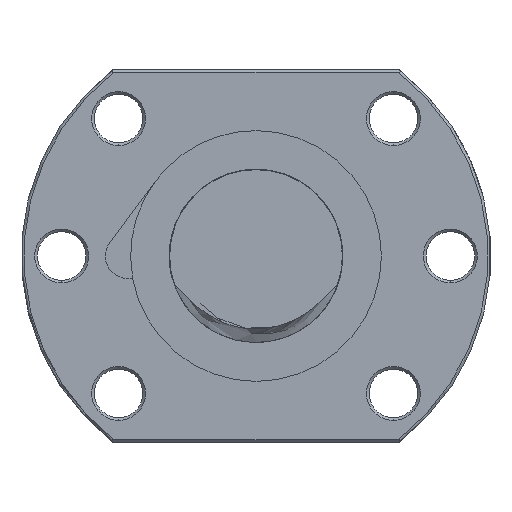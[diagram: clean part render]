
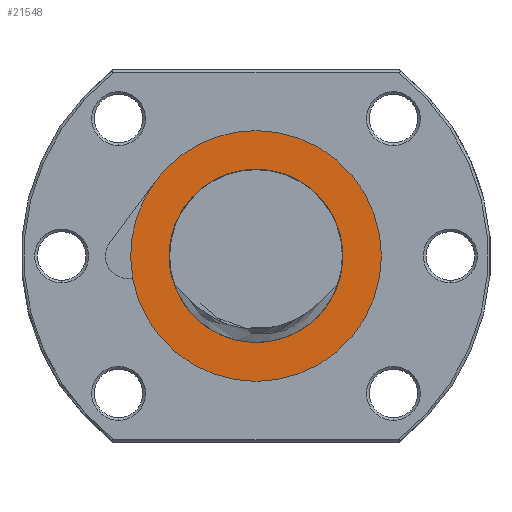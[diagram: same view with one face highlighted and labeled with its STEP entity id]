
A CAD part, left-side view. The second image highlights one B-rep face of the part: STEP entity #21548.
In plain terms, the highlighted planar face has unit normal (-1, 0, 0).
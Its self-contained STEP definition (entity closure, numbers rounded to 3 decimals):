
#21258 = VERTEX_POINT ( 'NONE', #22998 ) ;
#21411 = EDGE_CURVE ( 'NONE', #21258, #21412, #23364, .T. ) ;
#21412 = VERTEX_POINT ( 'NONE', #23360 ) ;
#21446 = EDGE_CURVE ( 'NONE', #21447, #21448, #23278, .T. ) ;
#21447 = VERTEX_POINT ( 'NONE', #23274 ) ;
#21448 = VERTEX_POINT ( 'NONE', #23269 ) ;
#21462 = EDGE_CURVE ( 'NONE', #21412, #21463, #23254, .T. ) ;
#21463 = VERTEX_POINT ( 'NONE', #23250 ) ;
#21535 = EDGE_CURVE ( 'NONE', #21448, #21536, #23609, .T. ) ;
#21536 = VERTEX_POINT ( 'NONE', #23604 ) ;
#21548 = ADVANCED_FACE ( 'NONE', ( #23566, #23568 ), #23565, .T. ) ;
#21549 = EDGE_LOOP ( 'NONE', ( #21550, #21551, #21553 ) ) ;
#21550 = ORIENTED_EDGE ( 'NONE', *, *, #21411, .F. ) ;
#21551 = ORIENTED_EDGE ( 'NONE', *, *, #21552, .F. ) ;
#21552 = EDGE_CURVE ( 'NONE', #21463, #21258, #23556, .T. ) ;
#21553 = ORIENTED_EDGE ( 'NONE', *, *, #21462, .F. ) ;
#21554 = EDGE_LOOP ( 'NONE', ( #21555, #21558, #21559, #21560 ) ) ;
#21555 = ORIENTED_EDGE ( 'NONE', *, *, #21556, .T. ) ;
#21556 = EDGE_CURVE ( 'NONE', #21536, #21632, #23555, .T. ) ;
#21558 = ORIENTED_EDGE ( 'NONE', *, *, #21631, .T. ) ;
#21559 = ORIENTED_EDGE ( 'NONE', *, *, #21446, .T. ) ;
#21560 = ORIENTED_EDGE ( 'NONE', *, *, #21535, .T. ) ;
#21631 = EDGE_CURVE ( 'NONE', #21632, #21447, #26987, .T. ) ;
#21632 = VERTEX_POINT ( 'NONE', #26978 ) ;
#22998 = CARTESIAN_POINT ( 'NONE',  ( -179.8, -14.764, -6.422 ) ) ;
#23250 = CARTESIAN_POINT ( 'NONE',  ( -179.8, 15.587, -4.033 ) ) ;
#23251 = DIRECTION ( 'NONE',  ( 0., 0., 1. ) ) ;
#23252 = DIRECTION ( 'NONE',  ( -1., 0., 0. ) ) ;
#23253 = AXIS2_PLACEMENT_3D ( 'NONE', #23257, #23252, #23251 ) ;
#23254 = CIRCLE ( 'NONE', #23253, 16.1 ) ;
#23257 = CARTESIAN_POINT ( 'NONE',  ( -179.8, 0., 0. ) ) ;
#23269 = CARTESIAN_POINT ( 'NONE',  ( -179.8, 0., 23.225 ) ) ;
#23270 = DIRECTION ( 'NONE',  ( 0., 0., 1. ) ) ;
#23271 = DIRECTION ( 'NONE',  ( -1., 0., 0. ) ) ;
#23272 = CARTESIAN_POINT ( 'NONE',  ( -179.8, 0., 0. ) ) ;
#23273 = AXIS2_PLACEMENT_3D ( 'NONE', #23272, #23271, #23270 ) ;
#23274 = CARTESIAN_POINT ( 'NONE',  ( -179.8, 0., -23.225 ) ) ;
#23278 = CIRCLE ( 'NONE', #23273, 23.225 ) ;
#23360 = CARTESIAN_POINT ( 'NONE',  ( -179.8, 0., 16.1 ) ) ;
#23361 = DIRECTION ( 'NONE',  ( 0., 0., 1. ) ) ;
#23362 = DIRECTION ( 'NONE',  ( -1., 0., 0. ) ) ;
#23363 = AXIS2_PLACEMENT_3D ( 'NONE', #23367, #23362, #23361 ) ;
#23364 = CIRCLE ( 'NONE', #23363, 16.1 ) ;
#23367 = CARTESIAN_POINT ( 'NONE',  ( -179.8, 0., 0. ) ) ;
#23497 = DIRECTION ( 'NONE',  ( 0., 0., 1. ) ) ;
#23498 = DIRECTION ( 'NONE',  ( -1., 0., 0. ) ) ;
#23499 = CARTESIAN_POINT ( 'NONE',  ( -179.8, 0., 0. ) ) ;
#23500 = AXIS2_PLACEMENT_3D ( 'NONE', #23499, #23498, #23497 ) ;
#23502 = CARTESIAN_POINT ( 'NONE',  ( -179.8, -14.764, -6.422 ) ) ;
#23503 = CARTESIAN_POINT ( 'NONE',  ( -179.8, -14.598, -6.507 ) ) ;
#23504 = CARTESIAN_POINT ( 'NONE',  ( -179.8, -14.442, -6.612 ) ) ;
#23505 = CARTESIAN_POINT ( 'NONE',  ( -179.8, -14.141, -6.835 ) ) ;
#23506 = CARTESIAN_POINT ( 'NONE',  ( -179.8, -13.996, -6.953 ) ) ;
#23507 = CARTESIAN_POINT ( 'NONE',  ( -179.8, -13.567, -7.315 ) ) ;
#23508 = CARTESIAN_POINT ( 'NONE',  ( -179.8, -13.289, -7.566 ) ) ;
#23509 = CARTESIAN_POINT ( 'NONE',  ( -179.8, -12.456, -8.318 ) ) ;
#23510 = CARTESIAN_POINT ( 'NONE',  ( -179.8, -11.898, -8.817 ) ) ;
#23511 = CARTESIAN_POINT ( 'NONE',  ( -179.8, -10.166, -10.229 ) ) ;
#23512 = CARTESIAN_POINT ( 'NONE',  ( -179.8, -8.938, -11.062 ) ) ;
#23513 = CARTESIAN_POINT ( 'NONE',  ( -179.8, -7.268, -11.903 ) ) ;
#23514 = CARTESIAN_POINT ( 'NONE',  ( -179.8, -6.926, -12.062 ) ) ;
#23515 = CARTESIAN_POINT ( 'NONE',  ( -179.8, -6.234, -12.356 ) ) ;
#23516 = CARTESIAN_POINT ( 'NONE',  ( -179.8, -5.886, -12.492 ) ) ;
#23517 = CARTESIAN_POINT ( 'NONE',  ( -179.8, -4.83, -12.861 ) ) ;
#23518 = CARTESIAN_POINT ( 'NONE',  ( -179.8, -4.113, -13.059 ) ) ;
#23519 = CARTESIAN_POINT ( 'NONE',  ( -179.8, -3.018, -13.282 ) ) ;
#23520 = CARTESIAN_POINT ( 'NONE',  ( -179.8, -2.649, -13.344 ) ) ;
#23521 = CARTESIAN_POINT ( 'NONE',  ( -179.8, -1.906, -13.443 ) ) ;
#23522 = CARTESIAN_POINT ( 'NONE',  ( -179.8, -1.53, -13.479 ) ) ;
#23523 = CARTESIAN_POINT ( 'NONE',  ( -179.8, -0.408, -13.548 ) ) ;
#23524 = CARTESIAN_POINT ( 'NONE',  ( -179.8, 0.336, -13.541 ) ) ;
#23525 = CARTESIAN_POINT ( 'NONE',  ( -179.8, 1.815, -13.423 ) ) ;
#23526 = CARTESIAN_POINT ( 'NONE',  ( -179.8, 2.55, -13.313 ) ) ;
#23527 = CARTESIAN_POINT ( 'NONE',  ( -179.8, 3.647, -13.068 ) ) ;
#23528 = CARTESIAN_POINT ( 'NONE',  ( -179.8, 4.013, -12.972 ) ) ;
#23529 = CARTESIAN_POINT ( 'NONE',  ( -179.8, 4.73, -12.757 ) ) ;
#23530 = CARTESIAN_POINT ( 'NONE',  ( -179.8, 5.083, -12.638 ) ) ;
#23531 = CARTESIAN_POINT ( 'NONE',  ( -179.8, 6.82, -11.985 ) ) ;
#23532 = CARTESIAN_POINT ( 'NONE',  ( -179.8, 8.119, -11.281 ) ) ;
#23533 = CARTESIAN_POINT ( 'NONE',  ( -179.8, 9.637, -10.191 ) ) ;
#23534 = CARTESIAN_POINT ( 'NONE',  ( -179.8, 9.936, -9.961 ) ) ;
#23542 = CARTESIAN_POINT ( 'NONE',  ( -179.8, 10.517, -9.487 ) ) ;
#23543 = CARTESIAN_POINT ( 'NONE',  ( -179.8, 10.799, -9.242 ) ) ;
#23544 = CARTESIAN_POINT ( 'NONE',  ( -179.8, 11.624, -8.485 ) ) ;
#23545 = CARTESIAN_POINT ( 'NONE',  ( -179.8, 12.143, -7.952 ) ) ;
#23546 = CARTESIAN_POINT ( 'NONE',  ( -179.8, 13.136, -6.841 ) ) ;
#23547 = CARTESIAN_POINT ( 'NONE',  ( -179.8, 13.608, -6.262 ) ) ;
#23548 = CARTESIAN_POINT ( 'NONE',  ( -179.8, 14.312, -5.391 ) ) ;
#23549 = CARTESIAN_POINT ( 'NONE',  ( -179.8, 14.546, -5.1 ) ) ;
#23550 = CARTESIAN_POINT ( 'NONE',  ( -179.8, 14.912, -4.677 ) ) ;
#23551 = CARTESIAN_POINT ( 'NONE',  ( -179.8, 15.036, -4.538 ) ) ;
#23552 = CARTESIAN_POINT ( 'NONE',  ( -179.8, 15.298, -4.272 ) ) ;
#23553 = CARTESIAN_POINT ( 'NONE',  ( -179.8, 15.435, -4.144 ) ) ;
#23554 = CARTESIAN_POINT ( 'NONE',  ( -179.8, 15.587, -4.033 ) ) ;
#23555 = CIRCLE ( 'NONE', #23500, 23.225 ) ;
#23556 = B_SPLINE_CURVE_WITH_KNOTS ( 'NONE', 3,
 ( #23554, #23553, #23552, #23551, #23550, #23549, #23548, #23547, #23546, #23545, #23544, #23543, #23542, #23534, #23533, #23532, #23531, #23530, #23529, #23528, #23527, #23526, #23525, #23524, #23523, #23522, #23521, #23520, #23519, #23518, #23517, #23516, #23515, #23514, #23513, #23512, #23511, #23510, #23509, #23508, #23507, #23506, #23505, #23504, #23503, #23502 ),
 .UNSPECIFIED., .F., .F.,
 ( 4, 2, 2, 2, 2, 2, 2, 2, 2, 2, 2, 2, 2, 2, 2, 2, 2, 2, 2, 2, 2, 2, 4 ),
 ( 0.051, 0.052, 0.052, 0.053, 0.056, 0.058, 0.059, 0.06, 0.065, 0.066, 0.067, 0.069, 0.072, 0.073, 0.074, 0.076, 0.077, 0.078, 0.083, 0.085, 0.086, 0.087, 0.087 ),
 .UNSPECIFIED. ) ;
#23557 = DIRECTION ( 'NONE',  ( 0., 0., 1. ) ) ;
#23558 = DIRECTION ( 'NONE',  ( -1., 0., 0. ) ) ;
#23559 = CARTESIAN_POINT ( 'NONE',  ( -179.8, 0., 16.1 ) ) ;
#23560 = AXIS2_PLACEMENT_3D ( 'NONE', #23559, #23558, #23557 ) ;
#23565 = PLANE ( 'NONE',  #23560 ) ;
#23566 = FACE_BOUND ( 'NONE', #21549, .T. ) ;
#23568 = FACE_OUTER_BOUND ( 'NONE', #21554, .T. ) ;
#23604 = CARTESIAN_POINT ( 'NONE',  ( -179.8, 18.649, 13.843 ) ) ;
#23605 = DIRECTION ( 'NONE',  ( 0., 0., 1. ) ) ;
#23606 = DIRECTION ( 'NONE',  ( -1., 0., 0. ) ) ;
#23607 = CARTESIAN_POINT ( 'NONE',  ( -179.8, 0., 0. ) ) ;
#23608 = AXIS2_PLACEMENT_3D ( 'NONE', #23607, #23606, #23605 ) ;
#23609 = CIRCLE ( 'NONE', #23608, 23.225 ) ;
#26978 = CARTESIAN_POINT ( 'NONE',  ( -179.8, 22.863, -4.085 ) ) ;
#26979 = DIRECTION ( 'NONE',  ( 0., 0., 1. ) ) ;
#26980 = DIRECTION ( 'NONE',  ( -1., 0., 0. ) ) ;
#26981 = CARTESIAN_POINT ( 'NONE',  ( -179.8, 0., 0. ) ) ;
#26982 = AXIS2_PLACEMENT_3D ( 'NONE', #26981, #26980, #26979 ) ;
#26987 = CIRCLE ( 'NONE', #26982, 23.225 ) ;
